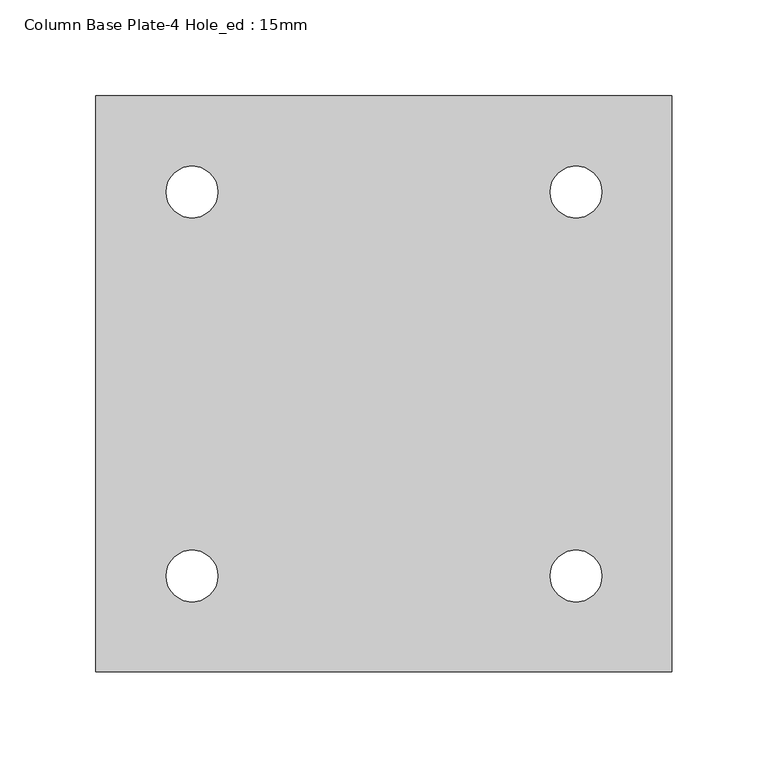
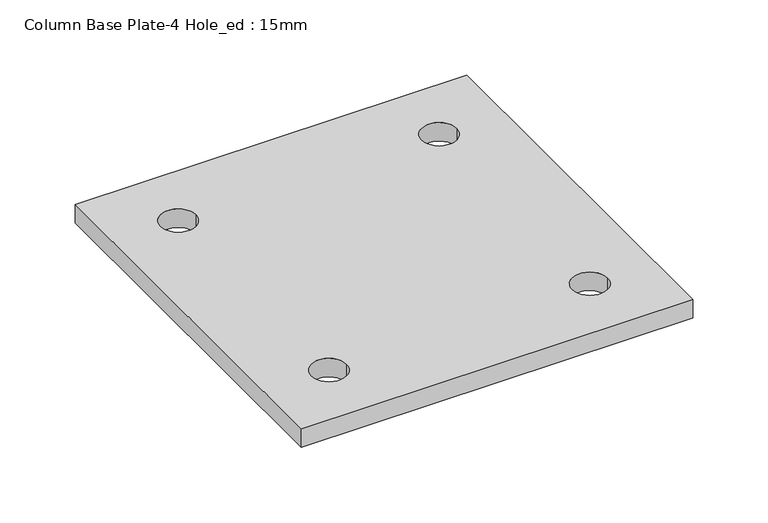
"""IFC4 building model written with IfcOpenShell, lengths in millimetres: fastener geometry, Column Base Plate-4 Hole_ed : 15mm."""

import ifcopenshell
import ifcopenshell.guid

model = None  # the IFC model being written
_history = None  # IfcOwnerHistory: only IFC2X3 demands one
_inside = {}  # id of a spatial element -> (the spatial element, [elements in it])
_under = {}  # id of a project, library or spatial element -> (it, [spatial elements below it])
_declared = {}  # id of a project -> (the project, [libraries it declares])
_typed = {}  # id of a type object -> (the type object, [elements of that type])
_made_of = {}  # id of a material, layer set ... -> (it, [elements and type objects made of it])


def new_model(schema):
    """Start an empty IFC model of exactly this schema.

    Asked for "IFC4X3", IfcOpenShell would pick the latest addendum, in which some entities
    have other attributes; the version numbers below select the first issue.
    IFC2X3 requires an IfcOwnerHistory on every rooted entity: one is made here for all.
    """
    global model, _history
    if schema == "IFC4X3":
        model = ifcopenshell.file(schema_version=(4, 3, 0, 0))
    else:
        model = ifcopenshell.file(schema=schema)
    _inside.clear()
    _under.clear()
    _declared.clear()
    _typed.clear()
    _made_of.clear()
    _history = None
    if model.schema == "IFC2X3":
        org = make("IfcOrganization", Name="unknown")
        user = make(
            "IfcPersonAndOrganization",
            ThePerson=make("IfcPerson", FamilyName="unknown"),
            TheOrganization=org,
        )
        app = make(
            "IfcApplication",
            ApplicationDeveloper=org,
            Version="unknown",
            ApplicationFullName="unknown",
            ApplicationIdentifier="unknown",
        )
        _history = make(
            "IfcOwnerHistory",
            OwningUser=user,
            OwningApplication=app,
            ChangeAction="ADDED",
            CreationDate=0,
        )
    return model


def make(cls, **values):
    """One entity of the class cls with the attributes given. An attribute that is None is left unset."""
    return model.create_entity(
        cls, **{name: value for name, value in values.items() if value is not None}
    )


def rooted(cls, **values):
    """An entity with a GlobalId (a new one), such as an element, a storey or a relation."""
    return make(cls, GlobalId=ifcopenshell.guid.new(), OwnerHistory=_history, **values)


def si_unit(unit_type, name, prefix=None):
    """IfcSIUnit, for example si_unit("LENGTHUNIT", "METRE", prefix="MILLI")."""
    return make("IfcSIUnit", UnitType=unit_type, Prefix=prefix, Name=name)


def assignment(units):
    """IfcUnitAssignment: the units of a project."""
    return None if units is None else make("IfcUnitAssignment", Units=units)


def point(xyz):
    """IfcCartesianPoint."""
    return None if xyz is None else make("IfcCartesianPoint", Coordinates=xyz)


def direction(xyz):
    """IfcDirection."""
    return None if xyz is None else make("IfcDirection", DirectionRatios=xyz)


def frame(location, z_axis=None, x_axis=None):
    """IfcAxis2Placement3D, a coordinate frame: its origin and axes. An axis left out is left unset."""
    return make(
        "IfcAxis2Placement3D",
        Location=point(location),
        Axis=direction(z_axis),
        RefDirection=direction(x_axis),
    )


def frame_2d(location, x_axis=None):
    """IfcAxis2Placement2D, a coordinate frame in the plane: its origin and x axis."""
    return make(
        "IfcAxis2Placement2D", Location=point(location), RefDirection=direction(x_axis)
    )


def origin():
    """The frame at (0, 0, 0) with its axes left unset."""
    return frame((0.0, 0.0, 0.0))


def origin_with_axes():
    """The frame at (0, 0, 0) with the z axis (0, 0, 1) and the x axis (1, 0, 0) written out."""
    return frame((0.0, 0.0, 0.0), z_axis=(0.0, 0.0, 1.0), x_axis=(1.0, 0.0, 0.0))


def place(relative_to, where):
    """IfcLocalPlacement: puts the frame where relative to a parent placement (None: the world)."""
    return make(
        "IfcLocalPlacement", PlacementRelTo=relative_to, RelativePlacement=where
    )


def context(
    kind, dimensions, precision=None, world=None, true_north=None, identifier=None
):
    """IfcGeometricRepresentationContext, for example the 3D "Model" context."""
    return make(
        "IfcGeometricRepresentationContext",
        ContextIdentifier=identifier,
        ContextType=kind,
        CoordinateSpaceDimension=dimensions,
        Precision=precision,
        WorldCoordinateSystem=world,
        TrueNorth=true_north,
    )


def project(units=None, contexts=None):
    """IfcProject with its units and contexts."""
    return rooted(
        "IfcProject",
        Name="project",
        RepresentationContexts=contexts,
        UnitsInContext=assignment(units),
    )


def spatial(cls, under=None, at=None, **own):
    """A site, building, storey or space (cls), placed at a placement, below another one or the project."""
    s = rooted(cls, ObjectPlacement=at, **own)
    if under is not None:
        _under.setdefault(under.id(), (under, []))[1].append(s)
    return s


def polyline(points):
    """IfcPolyline through the points."""
    return make("IfcPolyline", Points=[point(p) for p in points])


def circle_curve(where, radius):
    """IfcCircle in the frame where."""
    return make("IfcCircle", Position=where, Radius=radius)


def trimmed(basis, trim1, trim2, sense, master):
    """IfcTrimmedCurve: the piece of a basis curve between two trims."""
    return make(
        "IfcTrimmedCurve",
        BasisCurve=basis,
        Trim1=trim1,
        Trim2=trim2,
        SenseAgreement=sense,
        MasterRepresentation=master,
    )


def segment(curve, same_sense, transition):
    """IfcCompositeCurveSegment."""
    return make(
        "IfcCompositeCurveSegment",
        Transition=transition,
        SameSense=same_sense,
        ParentCurve=curve,
    )


def composite_curve(segments, self_intersect=None):
    """IfcCompositeCurve: segments joined end to end."""
    return make("IfcCompositeCurve", Segments=segments, SelfIntersect=self_intersect)


def outline(outer, holes=None, kind="AREA"):
    """IfcArbitraryClosedProfileDef: a profile drawn as a closed curve; with holes, ...WithVoids."""
    if holes is None:
        return make("IfcArbitraryClosedProfileDef", ProfileType=kind, OuterCurve=outer)
    return make(
        "IfcArbitraryProfileDefWithVoids",
        ProfileType=kind,
        OuterCurve=outer,
        InnerCurves=holes,
    )


def extrude(swept, where, along, depth):
    """IfcExtrudedAreaSolid: the profile swept, set in the frame where, extruded along a direction by depth."""
    return make(
        "IfcExtrudedAreaSolid",
        SweptArea=swept,
        Position=where,
        ExtrudedDirection=direction(along),
        Depth=depth,
    )


def shape(context_of_items, identifier, shape_type, items):
    """IfcShapeRepresentation: the items that make up one representation, for example the "Body"."""
    return make(
        "IfcShapeRepresentation",
        ContextOfItems=context_of_items,
        RepresentationIdentifier=identifier,
        RepresentationType=shape_type,
        Items=items,
    )


def source(mapping_origin, context_of_items, identifier, shape_type, items):
    """IfcRepresentationMap: a shape defined once, which mapped items show again and again."""
    return make(
        "IfcRepresentationMap",
        MappingOrigin=mapping_origin,
        MappedRepresentation=shape(context_of_items, identifier, shape_type, items),
    )


def transform(
    local_origin,
    x_axis=None,
    y_axis=None,
    z_axis=None,
    scale=None,
    scale2=None,
    scale3=None,
    uniform=True,
):
    """IfcCartesianTransformationOperator3D, or its non-uniform kind. x_axis, y_axis, z_axis: its Axis1, 2, 3."""
    if uniform:
        return make(
            "IfcCartesianTransformationOperator3D",
            Axis1=direction(x_axis),
            Axis2=direction(y_axis),
            LocalOrigin=point(local_origin),
            Scale=scale,
            Axis3=direction(z_axis),
        )
    return make(
        "IfcCartesianTransformationOperator3DnonUniform",
        Axis1=direction(x_axis),
        Axis2=direction(y_axis),
        LocalOrigin=point(local_origin),
        Scale=scale,
        Axis3=direction(z_axis),
        Scale2=scale2,
        Scale3=scale3,
    )


def mapped(mapping_source, mapping_target):
    """IfcMappedItem: shows the shape of a source again, moved by a transform."""
    return make(
        "IfcMappedItem", MappingSource=mapping_source, MappingTarget=mapping_target
    )


def made_of(thing, what):
    """Note that an element or type object is made of a material, layer set ...; save() writes the relation."""
    if what is not None:
        _made_of.setdefault(what.id(), (what, []))[1].append(thing)
    return thing


def element(
    cls,
    number,
    at=None,
    inside=None,
    cuts=None,
    type_object=None,
    material=None,
    context=None,
    identifier="Body",
    shape_type=None,
    held_by="IfcProductDefinitionShape",
    body=None,
    shapes=None,
    **own,
):
    """One element of the class cls, such as IfcWall. Its Tag is "e" and its number.

    at: its placement. inside: the storey or other place that contains it. cuts: it is an
    opening in that element (IfcRelVoidsElement). A single representation is given by context,
    identifier, shape_type and body (its items); several are given by shapes. held_by: the class
    of the entity that holds the representations. save() writes the other relations.
    """
    e = rooted(cls, Tag="e%d" % number, ObjectPlacement=at, **own)
    if body is not None:
        shapes = [shape(context, identifier, shape_type, body)]
    if shapes is not None:
        e.Representation = make(held_by, Representations=shapes)
    if inside is not None:
        _inside.setdefault(inside.id(), (inside, []))[1].append(e)
    if cuts is not None:
        rooted(
            "IfcRelVoidsElement", RelatingBuildingElement=cuts, RelatedOpeningElement=e
        )
    if type_object is not None:
        _typed.setdefault(type_object.id(), (type_object, []))[1].append(e)
    return made_of(e, material)


def aggregate(whole, parts):
    """IfcRelAggregates: a whole, such as a stair, and the parts it consists of."""
    return rooted("IfcRelAggregates", RelatingObject=whole, RelatedObjects=parts)


def save(model, path):
    """Write the relations noted so far, then the file.

    IfcRelAggregates (storeys below a building ...), IfcRelContainedInSpatialStructure (elements
    in a storey), IfcRelDefinesByType, IfcRelAssociatesMaterial and IfcRelDeclares: one each for
    every whole, place, type object, material and project.
    """
    for whole, parts in _under.values():
        aggregate(whole, parts)
    for where, things in _inside.values():
        rooted(
            "IfcRelContainedInSpatialStructure",
            RelatedElements=things,
            RelatingStructure=where,
        )
    for kind, things in _typed.values():
        rooted("IfcRelDefinesByType", RelatedObjects=things, RelatingType=kind)
    for what, things in _made_of.values():
        rooted("IfcRelAssociatesMaterial", RelatedObjects=things, RelatingMaterial=what)
    for by, libraries in _declared.values():
        rooted("IfcRelDeclares", RelatingContext=by, RelatedDefinitions=libraries)
    model.write(path)


def column_base_plate_4_hole_ed_15mm_67fb65c9(model_context):
    return source(origin(), model_context, "Body", "SweptSolid", [
        extrude(outline(polyline([(150.0, -150.0), (-150.0, -150.0), (-150.0, 150.0), (150.0, 150.0), (150.0, -150.0)]), holes=[composite_curve([segment(trimmed(circle_curve(frame_2d((-100.0, -100.0)), 13.5), [point((-113.5, -100.0))], [point((-86.5, -100.0))], True, "CARTESIAN"), True, "CONTINUOUS"), segment(trimmed(circle_curve(frame_2d((-100.0, -100.0)), 13.5), [point((-86.5, -100.0))], [point((-113.5, -100.0))], True, "CARTESIAN"), True, "CONTINUOUS")], self_intersect=False), composite_curve([segment(trimmed(circle_curve(frame_2d((100.0, -100.0)), 13.5), [point((86.5, -100.0))], [point((113.5, -100.0))], True, "CARTESIAN"), True, "CONTINUOUS"), segment(trimmed(circle_curve(frame_2d((100.0, -100.0)), 13.5), [point((113.5, -100.0))], [point((86.5, -100.0))], True, "CARTESIAN"), True, "CONTINUOUS")], self_intersect=False), composite_curve([segment(trimmed(circle_curve(frame_2d((-100.0, 100.0)), 13.5), [point((-113.5, 100.0))], [point((-86.5, 100.0))], True, "CARTESIAN"), True, "CONTINUOUS"), segment(trimmed(circle_curve(frame_2d((-100.0, 100.0)), 13.5), [point((-86.5, 100.0))], [point((-113.5, 100.0))], True, "CARTESIAN"), True, "CONTINUOUS")], self_intersect=False), composite_curve([segment(trimmed(circle_curve(frame_2d((100.0, 100.0)), 13.5), [point((86.5, 100.0))], [point((113.5, 100.0))], True, "CARTESIAN"), True, "CONTINUOUS"), segment(trimmed(circle_curve(frame_2d((100.0, 100.0)), 13.5), [point((113.5, 100.0))], [point((86.5, 100.0))], True, "CARTESIAN"), True, "CONTINUOUS")], self_intersect=False)]), origin_with_axes(), (0.0, 0.0, 1.0), 15.0),
    ])


if __name__ == "__main__":
    model = new_model("IFC4")
    model_context = context("Model", 3, world=origin())
    ifc_project = project(units=[si_unit("LENGTHUNIT", "METRE", prefix="MILLI")], contexts=[model_context])
    site = spatial("IfcSite", under=ifc_project)
    building = spatial("IfcBuilding", under=site)
    placement = place(None, origin())
    column_base_plate_4_hole_ed_15mm_shape = column_base_plate_4_hole_ed_15mm_67fb65c9(model_context)
    element("IfcFastener", 1, ObjectType="Column Base Plate-4 Hole_ed : 15mm", at=placement, inside=building, context=model_context, shape_type="MappedRepresentation", body=[
        mapped(column_base_plate_4_hole_ed_15mm_shape, transform((0.0, 0.0, 0.0), x_axis=(1.0, 0.0, 0.0), y_axis=(0.0, 1.0, 0.0), z_axis=(0.0, 0.0, 1.0))),
    ])
    save(model, "model.ifc")
